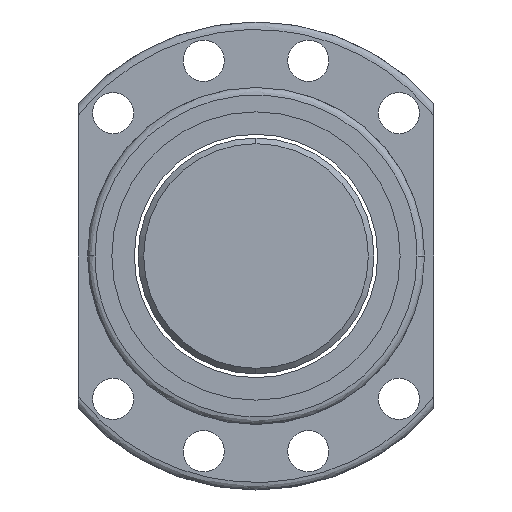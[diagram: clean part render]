
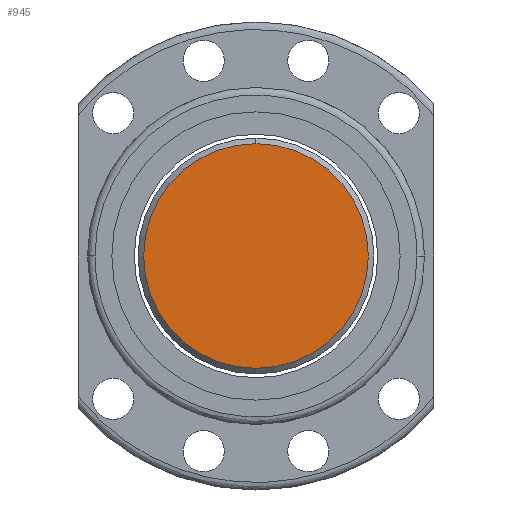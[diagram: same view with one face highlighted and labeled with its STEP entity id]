
A CAD part, left-side view. The second image highlights one B-rep face of the part: STEP entity #945.
In plain terms, the highlighted planar face has unit normal (-1, 0, 0).
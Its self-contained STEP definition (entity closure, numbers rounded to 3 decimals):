
#842 = EDGE_CURVE ( 'NONE', #904, #901, #2262, .T. ) ;
#844 = ORIENTED_EDGE ( 'NONE', *, *, #842, .F. ) ;
#901 = VERTEX_POINT ( 'NONE', #2392 ) ;
#904 = VERTEX_POINT ( 'NONE', #2381 ) ;
#908 = EDGE_CURVE ( 'NONE', #901, #904, #2371, .T. ) ;
#945 = ADVANCED_FACE ( 'NONE', ( #2445 ), #2447, .T. ) ;
#946 = ORIENTED_EDGE ( 'NONE', *, *, #908, .F. ) ;
#964 = EDGE_LOOP ( 'NONE', ( #946, #844 ) ) ;
#2244 = DIRECTION ( 'NONE',  ( 0., 0., -1. ) ) ;
#2245 = DIRECTION ( 'NONE',  ( 1., 0., 0. ) ) ;
#2246 = AXIS2_PLACEMENT_3D ( 'NONE', #2254, #2245, #2244 ) ;
#2254 = CARTESIAN_POINT ( 'NONE',  ( -222., 0., 0. ) ) ;
#2262 = CIRCLE ( 'NONE', #2246, 30. ) ;
#2367 = DIRECTION ( 'NONE',  ( 0., 0., -1. ) ) ;
#2368 = DIRECTION ( 'NONE',  ( 1., 0., 0. ) ) ;
#2369 = CARTESIAN_POINT ( 'NONE',  ( -222., 0., 0. ) ) ;
#2370 = AXIS2_PLACEMENT_3D ( 'NONE', #2369, #2368, #2367 ) ;
#2371 = CIRCLE ( 'NONE', #2370, 30. ) ;
#2381 = CARTESIAN_POINT ( 'NONE',  ( -222., 0., 30. ) ) ;
#2392 = CARTESIAN_POINT ( 'NONE',  ( -222., 0., -30. ) ) ;
#2437 = DIRECTION ( 'NONE',  ( 0., -1., 0. ) ) ;
#2438 = DIRECTION ( 'NONE',  ( -1., 0., 0. ) ) ;
#2444 = AXIS2_PLACEMENT_3D ( 'NONE', #2452, #2438, #2437 ) ;
#2445 = FACE_OUTER_BOUND ( 'NONE', #964, .T. ) ;
#2447 = PLANE ( 'NONE',  #2444 ) ;
#2452 = CARTESIAN_POINT ( 'NONE',  ( -222., 15.75, 0. ) ) ;
